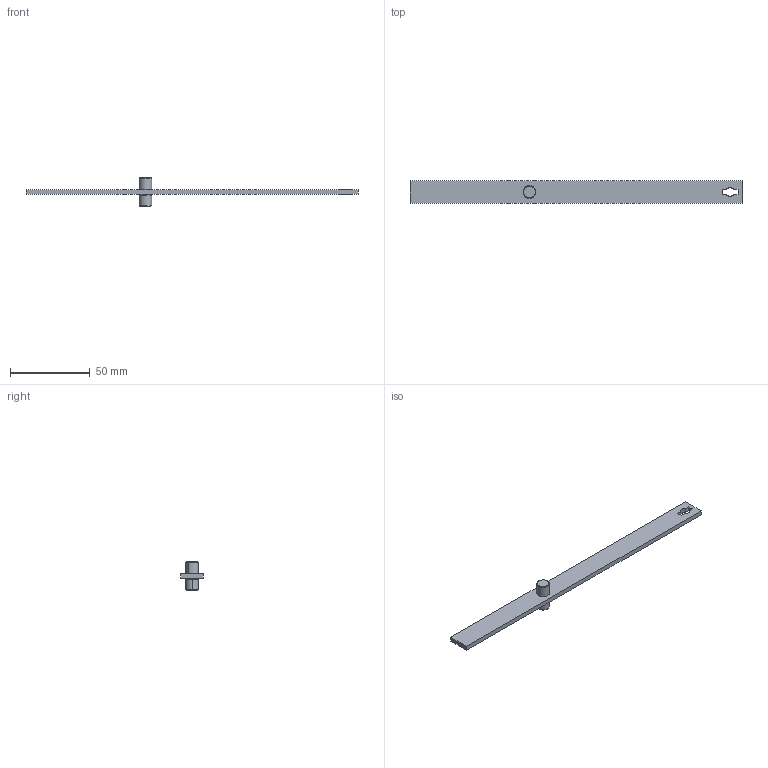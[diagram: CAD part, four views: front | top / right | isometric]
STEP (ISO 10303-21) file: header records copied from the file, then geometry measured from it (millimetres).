
FILE_DESCRIPTION (( 'STEP AP214' ), '1' );
FILE_NAME ('PP18-210.STEP', '2016-09-08T07:55:53', ( '' ), ( '' ), 'SwSTEP 2.0', 'SolidWorks 2015', '' );
FILE_SCHEMA (( 'AUTOMOTIVE_DESIGN' ));
Length unit declared in the file: millimetre
Products named in the file (4): PP18-210; 1C.PDB.02.02.00_A; 1C.PD.B.Z.X.Y.01_PP18-210; 1C.PDB.02.01.00_A
Assembly tree (3 placements, depth 2):
  PP18-210
    1C.PD.B.Z.X.Y.01_PP18-210
    1C.PDB.02.01.00_A
    1C.PDB.02.02.00_A
Bounding box: 208.5 x 14 x 18.1 mm (x, y, z)
Volume: 9389.2 mm3; surface area: 7964.5 mm2
Topology: 3 solids, 3 shells, 46 faces, 102 edges, 63 vertices
Faces by surface type: plane 18, cylinder 16, cone 12
Entity records: 1424 total; most frequent: DIRECTION 246, CARTESIAN_POINT 215, ORIENTED_EDGE 200, EDGE_CURVE 100, AXIS2_PLACEMENT_3D 94, VERTEX_POINT 63, LINE 58, VECTOR 58
